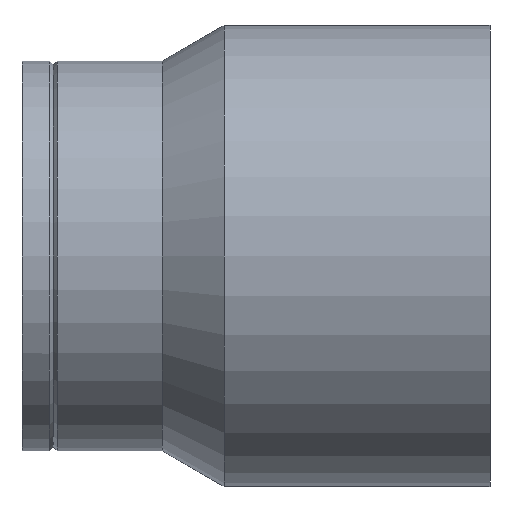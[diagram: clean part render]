
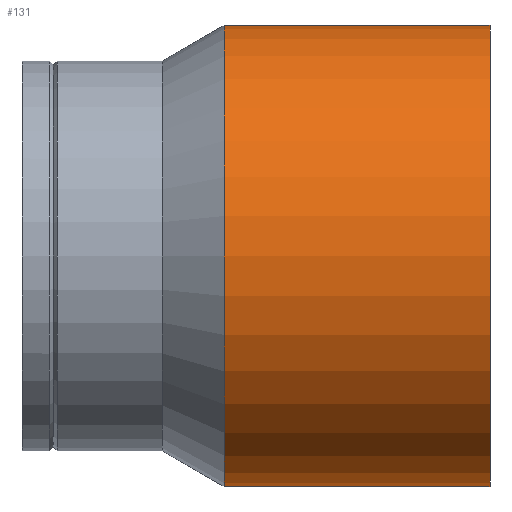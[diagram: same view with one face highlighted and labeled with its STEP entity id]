
A CAD part, front view. The second image highlights one B-rep face of the part: STEP entity #131.
In plain terms, the highlighted cylindrical face has radius 147.8 mm (diameter 295.6 mm), a full revolution.
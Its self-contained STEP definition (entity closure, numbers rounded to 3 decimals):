
#18=CYLINDRICAL_SURFACE($,#154,147.8);
#28=FACE_BOUND($,#59,.T.);
#40=FACE_OUTER_BOUND($,#58,.T.);
#58=EDGE_LOOP($,(#113));
#59=EDGE_LOOP($,(#114));
#72=CIRCLE($,#153,147.8);
#73=CIRCLE($,#155,147.8);
#83=VERTEX_POINT($,#230);
#84=VERTEX_POINT($,#233);
#94=EDGE_CURVE($,#83,#83,#72,.T.);
#95=EDGE_CURVE($,#84,#84,#73,.T.);
#113=ORIENTED_EDGE($,*,*,#95,.F.);
#114=ORIENTED_EDGE($,*,*,#94,.T.);
#131=ADVANCED_FACE($,(#40,#28),#18,.T.);
#153=AXIS2_PLACEMENT_3D($,#231,#193,#194);
#154=AXIS2_PLACEMENT_3D($,#232,#195,#196);
#155=AXIS2_PLACEMENT_3D($,#234,#197,#198);
#193=DIRECTION('center_axis',(1.,0.,0.));
#194=DIRECTION('ref_axis',(0.,1.,0.));
#195=DIRECTION('center_axis',(1.,0.,0.));
#196=DIRECTION('ref_axis',(0.,1.,0.));
#197=DIRECTION('center_axis',(1.,0.,0.));
#198=DIRECTION('ref_axis',(0.,1.,0.));
#230=CARTESIAN_POINT('',(129.491,147.8,0.));
#231=CARTESIAN_POINT('Origin',(129.491,0.,0.));
#232=CARTESIAN_POINT('Origin',(214.745,0.,0.));
#233=CARTESIAN_POINT('',(300.,147.8,0.));
#234=CARTESIAN_POINT('Origin',(300.,0.,0.));
